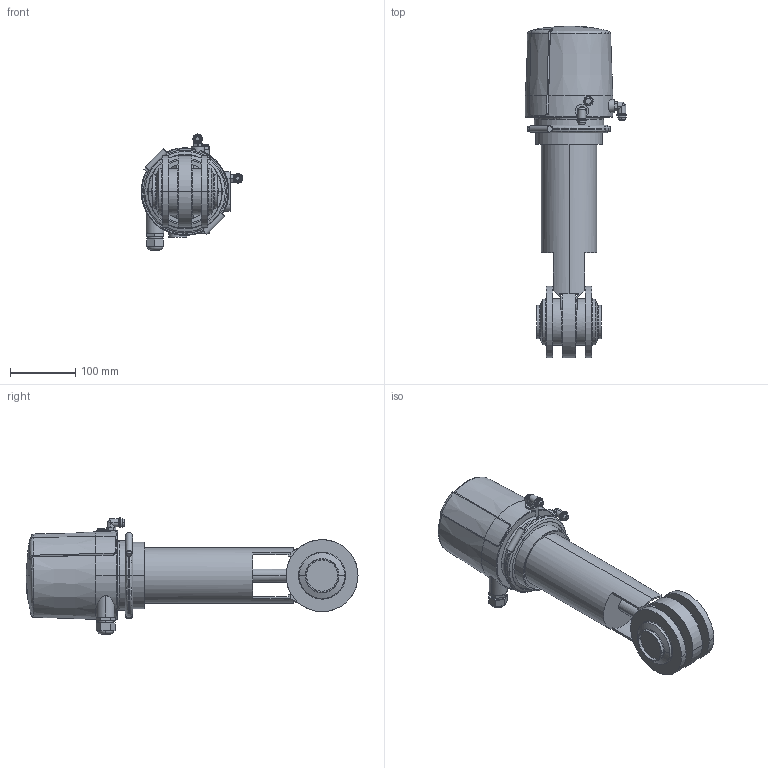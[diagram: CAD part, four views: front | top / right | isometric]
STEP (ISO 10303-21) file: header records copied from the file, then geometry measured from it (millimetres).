
FILE_DESCRIPTION(('Creo Elements/Direct Modeling STEP Export'),'2;1');
FILE_NAME('SVS1F-2zoll-CU4.stp','2013-05-24T11:35:11',(''),(''),'Creo Elements/Direct Modeling STEP processor for AP214 (Solid Model)','Creo Elements/Direct Modeling 17.0D 15-Jul-2011 (C) Parametric Technology GmbH','');
FILE_SCHEMA(('AUTOMOTIVE_DESIGN { 1 0 10303 214 1 1 1 1 }'));
Length unit declared in the file: millimetre
Products named in the file (4): Luftanschluß; SVS1F-2zoll; CU41-mit-T-Adapter; SVS1F-2zoll-CU4
Assembly tree (3 placements, depth 2):
  SVS1F-2zoll-CU4
    CU41-mit-T-Adapter
    SVS1F-2zoll
    Luftanschluß
Bounding box: 155.4 x 507.94 x 177.6 mm (x, y, z)
Volume: 3663402 mm3; surface area: 284467.4 mm2
Topology: 3 solids, 9 shells, 473 faces, 1179 edges, 747 vertices
Faces by surface type: plane 217, cylinder 149, torus 51, cone 40, bspline 10, sphere 6
Entity records: 22692 total; most frequent: CARTESIAN_POINT 11255, ORIENTED_EDGE 2370, DIRECTION 2067, EDGE_CURVE 1177, AXIS2_PLACEMENT_3D 786, VERTEX_POINT 747, EDGE_LOOP 524, VECTOR 495
